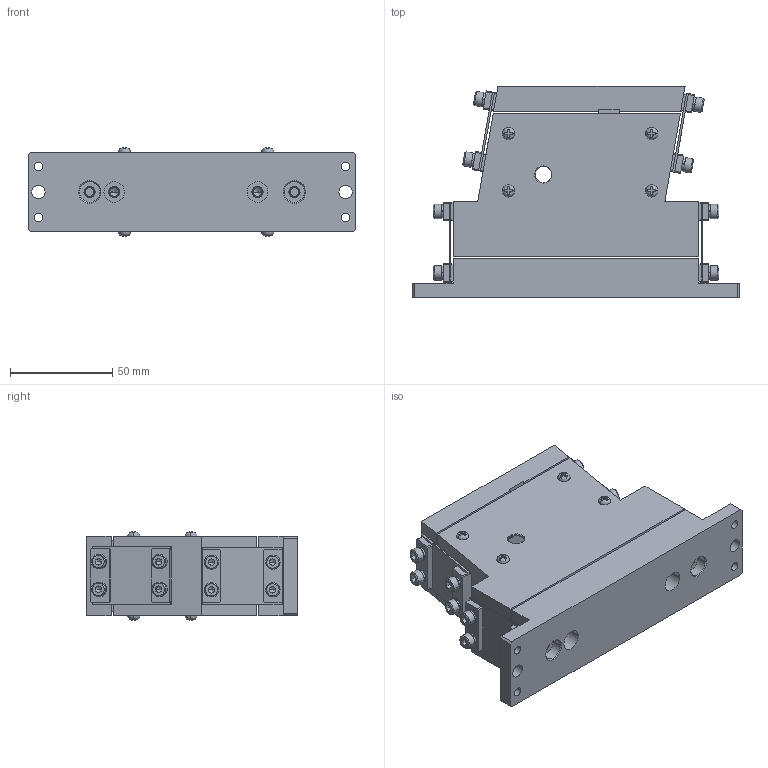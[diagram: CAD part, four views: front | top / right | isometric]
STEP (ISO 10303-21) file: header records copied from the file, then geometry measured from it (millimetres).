
FILE_DESCRIPTION((''),'2;1');
FILE_NAME('LP-B-300','2013-08-09T',('Administrator'),(''),'PRO/ENGINEER BY PARAMETRIC TECHNOLOGY CORPORATION, 2009280','PRO/ENGINEER BY PARAMETRIC TECHNOLOGY CORPORATION, 2009280','');
FILE_SCHEMA(('CONFIG_CONTROL_DESIGN'));
Length unit declared in the file: millimetre
Products named in the file (1): LP-B-300
Bounding box: 160 x 103 x 43 mm (x, y, z)
Volume: 391418.9 mm3; surface area: 98273.5 mm2
Topology: 1 solids, 63 shells, 1239 faces, 3251 edges, 2124 vertices
Faces by surface type: plane 639, cylinder 377, cone 175, torus 32, bspline 16
Entity records: 39613 total; most frequent: CARTESIAN_POINT 9105, DIRECTION 6304, ORIENTED_EDGE 6242, EDGE_CURVE 3187, AXIS2_PLACEMENT_3D 2327, VERTEX_POINT 2124, VECTOR 1650, LINE 1650
